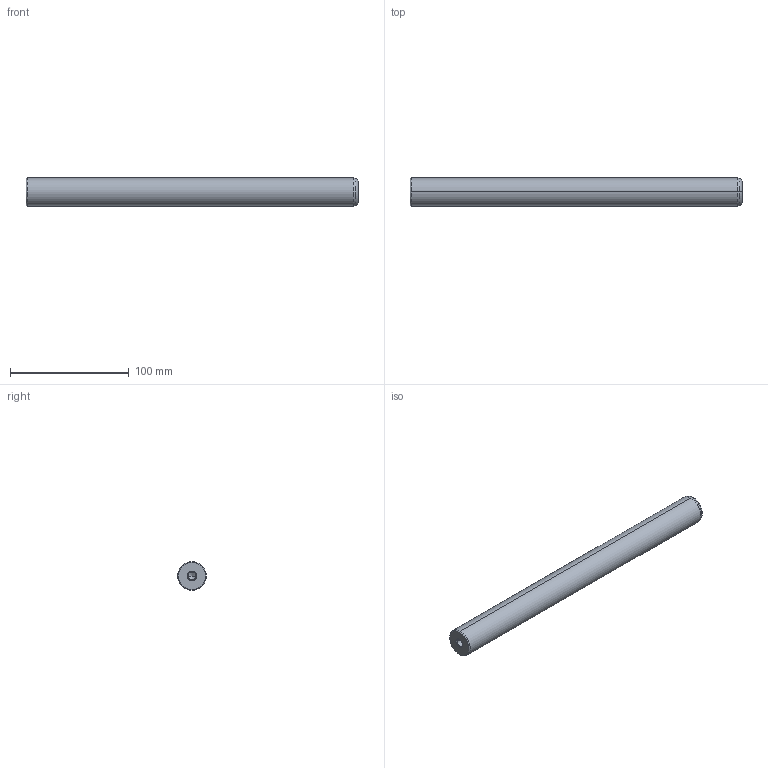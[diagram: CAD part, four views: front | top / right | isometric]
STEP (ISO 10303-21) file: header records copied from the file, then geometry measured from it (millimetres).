
FILE_DESCRIPTION(('CATIA V5 STEP Exchange'),'2;1');
FILE_NAME('C:\Users\Utente\Desktop\IO LAVORO\3D X SITO CF\X SITO\720\720-24x280.stp','2021-01-01T12:49:37+00:00',('none'),('none'),'CATIA Version 5 Release 20 GA (IN-10)','CATIA V5 STEP AP203','none');
FILE_SCHEMA(('CONFIG_CONTROL_DESIGN'));
Length unit declared in the file: millimetre
Products named in the file (1): 720-24x280
Bounding box: 280 x 24 x 24 mm (x, y, z)
Volume: 124703.2 mm3; surface area: 22851.5 mm2
Topology: 1 solids, 1 shells, 22 faces, 56 edges, 34 vertices
Faces by surface type: cone 12, cylinder 6, plane 2, torus 2
Entity records: 755 total; most frequent: CARTESIAN_POINT 216, ORIENTED_EDGE 104, DIRECTION 89, EDGE_CURVE 52, AXIS2_PLACEMENT_3D 50, VERTEX_POINT 34, CIRCLE 27, EDGE_LOOP 24
